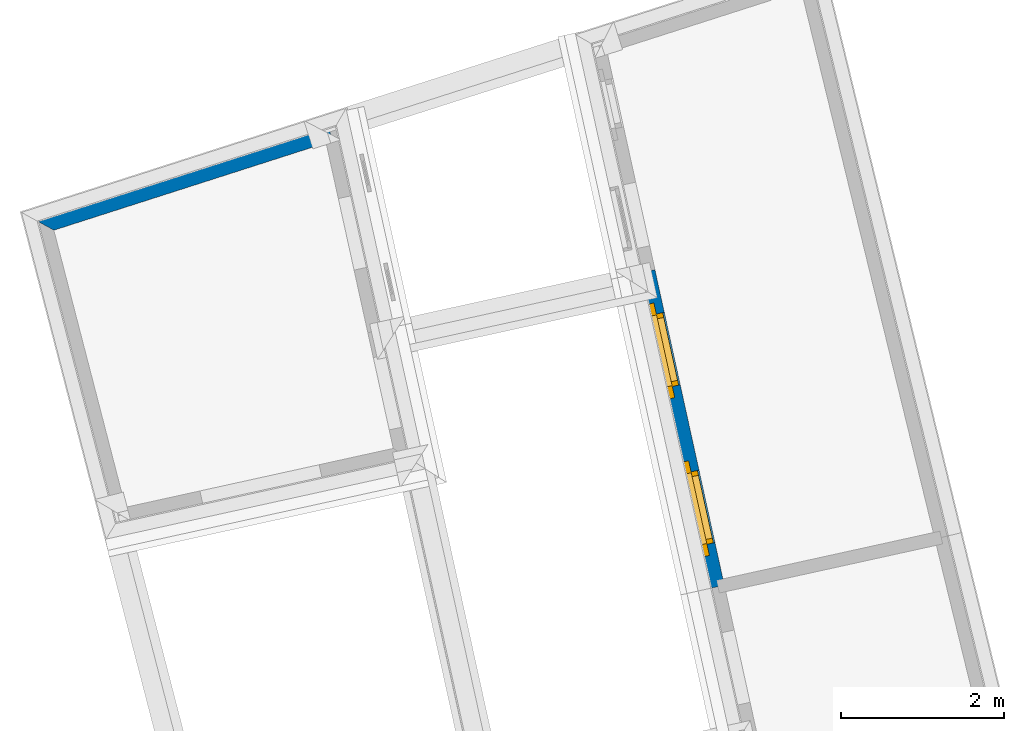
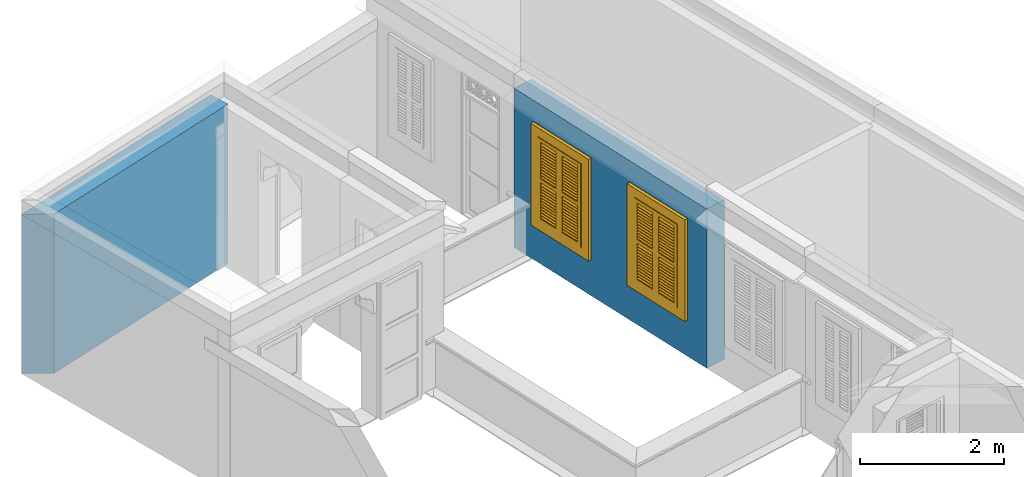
# One storey, part 11 of 17: 2 walls, 2 windows, 2 openings.
"""IFC4 building model written with IfcOpenShell, lengths in metres."""

from ifc_helpers import new_model, si_unit, frame, origin, origin_with_axes, place, context, subcontext, project, spatial, polyline, outline, extrude, faceted_brep, source, transform, mapped, material, layer, layer_set, layer_usage, type_object, type_shapes, element, fill, save


model = new_model("IFC4")

# Units and contexts
model_context = context("Model", 3, world=origin_with_axes())
body_context = subcontext(model_context, "Body", "Model", "MODEL_VIEW")
ifc_project = project(units=[si_unit("PLANEANGLEUNIT", "RADIAN"), si_unit("MASSUNIT", "GRAM", prefix="KILO"), si_unit("FORCEUNIT", "NEWTON", prefix="KILO"), si_unit("LENGTHUNIT", "METRE"), si_unit("AREAUNIT", "SQUARE_METRE"), si_unit("VOLUMEUNIT", "CUBIC_METRE")], contexts=[model_context, model_context])

# Site, building, storey
site_placement = place(None, origin_with_axes())
site = spatial("IfcSite", under=ifc_project, at=site_placement, Name="Site plot-2", CompositionType="ELEMENT")
building_placement = place(None, origin_with_axes())
building = spatial("IfcBuilding", under=site, at=building_placement, Name="Building plot-2", CompositionType="ELEMENT")
storey_placement = place(None, frame((0.0, 0.0, 2.85), z_axis=(0.0, 0.0, 1.0), x_axis=(1.0, 0.0, 0.0)))
storey = spatial("IfcBuildingStorey", under=building, at=storey_placement, Name="plot-2 1", CompositionType="ELEMENT", Elevation=2.85)

# Wall, openings, windows
ifc_material_1 = material(Name="Masonry")
ifc_layer_1 = layer(ifc_material_1, 0.33, ventilated=False)
ifc_layer_set_1 = layer_set([ifc_layer_1], Name="exterior_0.08_0.25")
ifc_layer_usage_1 = layer_usage(ifc_layer_set_1, "AXIS2", "POSITIVE", -0.25)
wall_type_1 = type_object("IfcWallType", Name="exterior_0.08_0.25", PredefinedType="SOLIDWALL", material=ifc_layer_set_1)
wall_1_placement = place(storey_placement, frame((15.4847400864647, 13.3196034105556, 0.0), z_axis=(0.0, 0.0, 1.0), x_axis=(0.214808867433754, -0.976656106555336, 0.0)))
wall_1 = element("IfcWall", 1, at=wall_1_placement, inside=storey, type_object=wall_type_1, material=ifc_layer_usage_1, Name="exterior", context=body_context, shape_type="SweptSolid", body=[
    extrude(outline(polyline([(2.54508886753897e-15, 0.0800000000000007), (-5.5970393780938e-15, -0.25), (3.96847754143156, -0.250000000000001), (3.96847754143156, 0.0800000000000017), (2.54508886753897e-15, 0.0800000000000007)])), origin_with_axes(), (0.0, 0.0, 1.0), 2.7),
])
opening_1_placement = place(wall_1_placement, frame((0.53711938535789, 0.0, 0.75)))
opening_1 = element("IfcOpeningElement", 2, at=opening_1_placement, cuts=wall_1, Name="My Opening", ObjectType="Opening", context=body_context, shape_type="SweptSolid", body=[
    extrude(outline(polyline([(0.0, -0.269999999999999), (0.909999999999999, -0.269999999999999), (0.910000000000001, 1.1), (1.11022302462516e-15, 1.1), (0.0, -0.269999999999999)])), origin_with_axes(), (0.0, 0.0, 1.0), 1.445),
])
opening_2_placement = place(wall_1_placement, frame((2.52135815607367, 0.0, 0.75)))
opening_2 = element("IfcOpeningElement", 3, at=opening_2_placement, cuts=wall_1, Name="My Opening", ObjectType="Opening", context=body_context, shape_type="SweptSolid", body=[
    extrude(outline(polyline([(0.0, -0.270000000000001), (0.910000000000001, -0.270000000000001), (0.910000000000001, 1.1), (4.44089209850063e-16, 1.1), (0.0, -0.270000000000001)])), origin_with_axes(), (0.0, 0.0, 1.0), 1.445),
])
window_type = type_object("IfcWindowType", Name="shuttered_shorter", PartitioningType="DOUBLE_PANEL_HORIZONTAL", PredefinedType="NOTDEFINED")
shared_shape = source(origin(), body_context, "Body", "Brep", [
    faceted_brep([(0.393, 0.0, 0.622), (0.074, 0.0, 0.622), (0.074, 0.0, 0.632), (0.393, 0.0, 0.632), (0.074, -0.04, 0.592), (0.393, -0.04, 0.592), (0.393, -0.04, 0.582), (0.074, -0.04, 0.582), (0.517, 0.0, 0.682), (0.836, 0.0, 0.682), (0.836, 0.0, 0.672), (0.517, 0.0, 0.672), (0.517, -0.04, 0.642), (0.836, -0.04, 0.642), (0.836, -0.04, 0.632), (0.517, -0.04, 0.632), (0.517, 0.0, 0.632), (0.836, 0.0, 0.632), (0.836, 0.0, 0.622), (0.517, 0.0, 0.622), (0.517, -0.04, 0.592), (0.836, -0.04, 0.592), (0.836, -0.04, 0.582), (0.517, -0.04, 0.582), (0.517, 0.0, 0.232), (0.836, 0.0, 0.232), (0.836, 0.0, 0.222), (0.517, 0.0, 0.222), (0.517, -0.04, 0.192), (0.836, -0.04, 0.192), (0.836, -0.04, 0.182), (0.517, -0.04, 0.182), (0.517, 0.0, 0.532), (0.836, 0.0, 0.532), (0.836, 0.0, 0.522), (0.517, 0.0, 0.522), (0.517, -0.04, 0.492), (0.836, -0.04, 0.492), (0.836, -0.04, 0.482), (0.517, -0.04, 0.482), (0.517, 0.0, 0.482), (0.836, 0.0, 0.482), (0.836, 0.0, 0.472), (0.517, 0.0, 0.472), (0.517, -0.04, 0.442), (0.836, -0.04, 0.442), (0.836, -0.04, 0.432), (0.517, -0.04, 0.432), (0.517, 0.0, 0.582), (0.836, 0.0, 0.582), (0.836, 0.0, 0.572), (0.517, 0.0, 0.572), (0.517, -0.04, 0.542), (0.836, -0.04, 0.542), (0.836, -0.04, 0.532), (0.517, -0.04, 0.532), (0.517, 0.0, 0.182), (0.836, 0.0, 0.182), (0.836, 0.0, 0.172), (0.517, 0.0, 0.172), (0.517, -0.04, 0.142), (0.836, -0.04, 0.142), (0.836, -0.04, 0.132), (0.517, -0.04, 0.132), (0.517, 0.0, 0.382), (0.836, 0.0, 0.382), (0.836, 0.0, 0.372), (0.517, 0.0, 0.372), (0.517, -0.04, 0.342), (0.836, -0.04, 0.342), (0.836, -0.04, 0.332), (0.517, -0.04, 0.332), (0.517, 0.0, 0.432), (0.836, 0.0, 0.432), (0.836, 0.0, 0.422), (0.517, 0.0, 0.422), (0.517, -0.04, 0.392), (0.836, -0.04, 0.392), (0.836, -0.04, 0.382), (0.517, -0.04, 0.382), (0.517, 0.0, 0.132), (0.836, 0.0, 0.132), (0.836, 0.0, 0.122), (0.517, 0.0, 0.122), (0.517, -0.04, 0.092), (0.836, -0.04, 0.092), (0.836, -0.04, 0.082), (0.517, -0.04, 0.082), (0.517, 0.0, 0.282), (0.836, 0.0, 0.282), (0.836, 0.0, 0.272), (0.517, 0.0, 0.272), (0.517, -0.04, 0.242), (0.836, -0.04, 0.242), (0.836, -0.04, 0.232), (0.517, -0.04, 0.232), (0.517, 0.0, 0.332), (0.836, 0.0, 0.332), (0.836, 0.0, 0.322), (0.517, 0.0, 0.322), (0.517, -0.04, 0.292), (0.836, -0.04, 0.292), (0.836, -0.04, 0.282), (0.517, -0.04, 0.282), (0.517, 0.0, 1.362667), (0.836, 0.0, 1.362667), (0.836, 0.0, 1.352667), (0.517, 0.0, 1.352667), (0.517, -0.04, 1.322667), (0.836, -0.04, 1.322667), (0.836, -0.04, 1.312667), (0.517, -0.04, 1.312667), (0.517, 0.0, 1.312667), (0.836, 0.0, 1.312667), (0.836, 0.0, 1.302667), (0.517, 0.0, 1.302667), (0.517, -0.04, 1.272667), (0.836, -0.04, 1.272667), (0.836, -0.04, 1.262667), (0.517, -0.04, 1.262667), (0.517, 0.0, 0.912667), (0.836, 0.0, 0.912667), (0.836, 0.0, 0.902667), (0.517, 0.0, 0.902667), (0.517, -0.04, 0.872667), (0.836, -0.04, 0.872667), (0.836, -0.04, 0.862667), (0.517, -0.04, 0.862667), (0.517, 0.0, 1.212667), (0.836, 0.0, 1.212667), (0.836, 0.0, 1.202667), (0.517, 0.0, 1.202667), (0.517, -0.04, 1.172667), (0.836, -0.04, 1.172667), (0.836, -0.04, 1.162667), (0.517, -0.04, 1.162667), (0.517, 0.0, 1.162667), (0.836, 0.0, 1.162667), (0.836, 0.0, 1.152667), (0.517, 0.0, 1.152667), (0.517, -0.04, 1.122667), (0.836, -0.04, 1.122667), (0.836, -0.04, 1.112667), (0.517, -0.04, 1.112667), (0.517, 0.0, 1.262667), (0.836, 0.0, 1.262667), (0.836, 0.0, 1.252667), (0.517, 0.0, 1.252667), (0.517, -0.04, 1.222667), (0.836, -0.04, 1.222667), (0.836, -0.04, 1.212667), (0.517, -0.04, 1.212667), (0.517, 0.0, 0.862667), (0.836, 0.0, 0.862667), (0.836, 0.0, 0.852667), (0.517, 0.0, 0.852667), (0.517, -0.04, 0.822667), (0.836, -0.04, 0.822667), (0.836, -0.04, 0.812667), (0.517, -0.04, 0.812667), (0.517, 0.0, 1.062667), (0.836, 0.0, 1.062667), (0.836, 0.0, 1.052667), (0.517, 0.0, 1.052667), (0.517, -0.04, 1.022667), (0.836, -0.04, 1.022667), (0.836, -0.04, 1.012667), (0.517, -0.04, 1.012667), (0.517, 0.0, 1.112667), (0.836, 0.0, 1.112667), (0.836, 0.0, 1.102667), (0.517, 0.0, 1.102667), (0.517, -0.04, 1.072667), (0.836, -0.04, 1.072667), (0.836, -0.04, 1.062667), (0.517, -0.04, 1.062667), (0.517, 0.0, 0.812667), (0.836, 0.0, 0.812667), (0.836, 0.0, 0.802667), (0.517, 0.0, 0.802667), (0.517, -0.04, 0.772667), (0.836, -0.04, 0.772667), (0.836, -0.04, 0.762667), (0.517, -0.04, 0.762667), (0.517, 0.0, 0.962667), (0.836, 0.0, 0.962667), (0.836, 0.0, 0.952667), (0.517, 0.0, 0.952667), (0.517, -0.04, 0.922667), (0.836, -0.04, 0.922667), (0.836, -0.04, 0.912667), (0.517, -0.04, 0.912667), (0.517, 0.0, 1.012667), (0.836, 0.0, 1.012667), (0.836, 0.0, 1.002667), (0.517, 0.0, 1.002667), (0.517, -0.04, 0.972667), (0.836, -0.04, 0.972667), (0.836, -0.04, 0.962667), (0.517, -0.04, 0.962667), (0.074, 0.0, 0.682), (0.393, 0.0, 0.682), (0.393, 0.0, 0.672), (0.074, 0.0, 0.672), (0.074, -0.04, 0.642), (0.393, -0.04, 0.642), (0.393, -0.04, 0.632), (0.074, -0.04, 0.632), (0.074, 0.0, 0.232), (0.393, 0.0, 0.232), (0.393, 0.0, 0.222), (0.074, 0.0, 0.222), (0.074, -0.04, 0.192), (0.393, -0.04, 0.192), (0.393, -0.04, 0.182), (0.074, -0.04, 0.182), (0.074, 0.0, 0.532), (0.393, 0.0, 0.532), (0.393, 0.0, 0.522), (0.074, 0.0, 0.522), (0.074, -0.04, 0.492), (0.393, -0.04, 0.492), (0.393, -0.04, 0.482), (0.074, -0.04, 0.482), (0.074, 0.0, 0.482), (0.393, 0.0, 0.482), (0.393, 0.0, 0.472), (0.074, 0.0, 0.472), (0.074, -0.04, 0.442), (0.393, -0.04, 0.442), (0.393, -0.04, 0.432), (0.074, -0.04, 0.432), (0.074, 0.0, 0.582), (0.393, 0.0, 0.582), (0.393, 0.0, 0.572), (0.074, 0.0, 0.572), (0.074, -0.04, 0.542), (0.393, -0.04, 0.542), (0.393, -0.04, 0.532), (0.074, -0.04, 0.532), (0.074, 0.0, 0.182), (0.393, 0.0, 0.182), (0.393, 0.0, 0.172), (0.074, 0.0, 0.172), (0.074, -0.04, 0.142), (0.393, -0.04, 0.142), (0.393, -0.04, 0.132), (0.074, -0.04, 0.132), (0.074, 0.0, 0.382), (0.393, 0.0, 0.382), (0.393, 0.0, 0.372), (0.074, 0.0, 0.372), (0.074, -0.04, 0.342), (0.393, -0.04, 0.342), (0.393, -0.04, 0.332), (0.074, -0.04, 0.332), (0.074, 0.0, 0.432), (0.393, 0.0, 0.432), (0.393, 0.0, 0.422), (0.074, 0.0, 0.422), (0.074, -0.04, 0.392), (0.393, -0.04, 0.392), (0.393, -0.04, 0.382), (0.074, -0.04, 0.382), (0.074, 0.0, 0.132), (0.393, 0.0, 0.132), (0.393, 0.0, 0.122), (0.074, 0.0, 0.122), (0.074, -0.04, 0.092), (0.393, -0.04, 0.092), (0.393, -0.04, 0.082), (0.074, -0.04, 0.082), (0.074, 0.0, 0.282), (0.393, 0.0, 0.282), (0.393, 0.0, 0.272), (0.074, 0.0, 0.272), (0.074, -0.04, 0.242), (0.393, -0.04, 0.242), (0.393, -0.04, 0.232), (0.074, -0.04, 0.232), (0.074, 0.0, 0.332), (0.393, 0.0, 0.332), (0.393, 0.0, 0.322), (0.074, 0.0, 0.322), (0.074, -0.04, 0.292), (0.393, -0.04, 0.292), (0.393, -0.04, 0.282), (0.074, -0.04, 0.282), (0.074, 0.0, 1.362667), (0.393, 0.0, 1.362667), (0.393, 0.0, 1.352667), (0.074, 0.0, 1.352667), (0.074, -0.04, 1.322667), (0.393, -0.04, 1.322667), (0.393, -0.04, 1.312667), (0.074, -0.04, 1.312667), (0.074, 0.0, 1.312667), (0.393, 0.0, 1.312667), (0.393, 0.0, 1.302667), (0.074, 0.0, 1.302667), (0.074, -0.04, 1.272667), (0.393, -0.04, 1.272667), (0.393, -0.04, 1.262667), (0.074, -0.04, 1.262667), (0.074, 0.0, 0.912667), (0.393, 0.0, 0.912667), (0.393, 0.0, 0.902667), (0.074, 0.0, 0.902667), (0.074, -0.04, 0.872667), (0.393, -0.04, 0.872667), (0.393, -0.04, 0.862667), (0.074, -0.04, 0.862667), (0.074, 0.0, 1.212667), (0.393, 0.0, 1.212667), (0.393, 0.0, 1.202667), (0.074, 0.0, 1.202667), (0.074, -0.04, 1.172667), (0.393, -0.04, 1.172667), (0.393, -0.04, 1.162667), (0.074, -0.04, 1.162667), (0.074, 0.0, 1.162667), (0.393, 0.0, 1.162667), (0.393, 0.0, 1.152667), (0.074, 0.0, 1.152667), (0.074, -0.04, 1.122667), (0.393, -0.04, 1.122667), (0.393, -0.04, 1.112667), (0.074, -0.04, 1.112667), (0.074, 0.0, 1.262667), (0.393, 0.0, 1.262667), (0.393, 0.0, 1.252667), (0.074, 0.0, 1.252667), (0.074, -0.04, 1.222667), (0.393, -0.04, 1.222667), (0.393, -0.04, 1.212667), (0.074, -0.04, 1.212667), (0.074, 0.0, 0.862667), (0.393, 0.0, 0.862667), (0.393, 0.0, 0.852667), (0.074, 0.0, 0.852667), (0.074, -0.04, 0.822667), (0.393, -0.04, 0.822667), (0.393, -0.04, 0.812667), (0.074, -0.04, 0.812667), (0.074, 0.0, 1.062667), (0.393, 0.0, 1.062667), (0.393, 0.0, 1.052667), (0.074, 0.0, 1.052667), (0.074, -0.04, 1.022667), (0.393, -0.04, 1.022667), (0.393, -0.04, 1.012667), (0.074, -0.04, 1.012667), (0.074, 0.0, 1.112667), (0.393, 0.0, 1.112667), (0.393, 0.0, 1.102667), (0.074, 0.0, 1.102667), (0.074, -0.04, 1.072667), (0.393, -0.04, 1.072667), (0.393, -0.04, 1.062667), (0.074, -0.04, 1.062667), (0.074, 0.0, 0.812667), (0.393, 0.0, 0.812667), (0.393, 0.0, 0.802667), (0.074, 0.0, 0.802667), (0.074, -0.04, 0.772667), (0.393, -0.04, 0.772667), (0.393, -0.04, 0.762667), (0.074, -0.04, 0.762667), (0.074, 0.0, 0.962667), (0.393, 0.0, 0.962667), (0.393, 0.0, 0.952667), (0.074, 0.0, 0.952667), (0.074, -0.04, 0.922667), (0.393, -0.04, 0.922667), (0.393, -0.04, 0.912667), (0.074, -0.04, 0.912667), (0.074, 0.0, 1.012667), (0.393, 0.0, 1.012667), (0.393, 0.0, 1.002667), (0.074, 0.0, 1.002667), (0.074, -0.04, 0.972667), (0.393, -0.04, 0.972667), (0.393, -0.04, 0.962667), (0.074, -0.04, 0.962667), (0.517, -0.04, 0.072), (0.457, -0.04, 0.012), (0.896, -0.04, 0.012), (0.836, -0.04, 0.072), (0.457, -0.04, 0.692667), (0.517, -0.04, 0.692667), (0.457, 0.0, 0.012), (0.896, 0.0, 0.012), (0.836, -0.04, 0.692667), (0.896, -0.04, 0.692667), (0.836, 0.0, 0.072), (0.517, 0.0, 0.072), (0.457, 0.0, 0.692667), (0.517, 0.0, 0.692667), (0.517, -0.04, 0.752666), (0.457, -0.04, 0.752666), (0.896, 0.0, 0.692667), (0.836, 0.0, 0.692667), (0.836, -0.04, 0.752666), (0.896, -0.04, 0.752666), (0.457, 0.0, 0.752666), (0.457, -0.04, 1.433333), (0.517, -0.04, 1.373333), (0.896, 0.0, 0.752666), (0.836, -0.04, 1.373333), (0.896, -0.04, 1.433333), (0.457, 0.0, 1.433333), (0.517, 0.0, 0.752666), (0.836, 0.0, 0.752666), (0.517, 0.0, 1.373333), (0.896, 0.0, 1.433333), (0.836, 0.0, 1.373333), (0.074, -0.04, 0.072), (0.014, -0.04, 0.012), (0.453, -0.04, 0.012), (0.393, -0.04, 0.072), (0.014, -0.04, 0.692667), (0.074, -0.04, 0.692667), (0.014, 0.0, 0.012), (0.453, 0.0, 0.012), (0.393, -0.04, 0.692667), (0.453, -0.04, 0.692667), (0.393, 0.0, 0.072), (0.074, 0.0, 0.072), (0.014, 0.0, 0.692667), (0.074, 0.0, 0.692667), (0.074, -0.04, 0.752666), (0.014, -0.04, 0.752666), (0.453, 0.0, 0.692667), (0.393, 0.0, 0.692667), (0.393, -0.04, 0.752666), (0.453, -0.04, 0.752666), (0.014, 0.0, 0.752666), (0.014, -0.04, 1.433333), (0.074, -0.04, 1.373333), (0.453, 0.0, 0.752666), (0.393, -0.04, 1.373333), (0.453, -0.04, 1.433333), (0.014, 0.0, 1.433333), (0.074, 0.0, 0.752666), (0.393, 0.0, 0.752666), (0.074, 0.0, 1.373333), (0.453, 0.0, 1.433333), (0.393, 0.0, 1.373333), (0.0, 0.33, 1.445), (0.91, 0.33, 1.445), (0.85, 0.33, 1.385), (0.06, 0.33, 1.385), (0.91, 0.25, 1.445), (0.0, 0.25, 1.445), (0.91, 0.25, 1.445), (0.85, 0.33, 0.06), (0.91, 0.33, 0.0), (0.85, 0.25, 1.385), (0.06, 0.25, 1.385), (0.0, 0.33, 0.0), (0.06, 0.33, 0.06), (0.0, 0.25, 0.0), (0.91, 0.25, 0.0), (0.85, 0.25, 0.06), (0.06, 0.25, 0.06), (1.05, 0.25, 1.585), (-0.14, 0.25, 1.585), (-0.14, -0.03, 1.585), (1.05, -0.03, 1.585), (0.9, -0.03, 1.435), (0.01, -0.03, 1.435), (0.01, 0.25, 1.435), (0.9, 0.25, 1.435), (0.9, 0.25, 0.01), (0.9, -0.03, 0.01), (1.05, -0.03, -0.14), (1.05, 0.25, -0.14), (0.01, -0.03, 0.01), (0.01, 0.25, 0.01), (-0.14, -0.03, -0.14), (-0.14, 0.25, -0.14)], [[[0, 1, 2, 3]], [[4, 5, 3, 2]], [[5, 6, 0, 3]], [[1, 0, 6, 7]], [[2, 1, 7, 4]], [[5, 4, 7, 6]], [[8, 9, 10, 11]], [[12, 13, 9, 8]], [[13, 14, 10, 9]], [[14, 15, 11, 10]], [[15, 12, 8, 11]], [[13, 12, 15, 14]], [[16, 17, 18, 19]], [[20, 21, 17, 16]], [[21, 22, 18, 17]], [[22, 23, 19, 18]], [[23, 20, 16, 19]], [[21, 20, 23, 22]], [[24, 25, 26, 27]], [[28, 29, 25, 24]], [[29, 30, 26, 25]], [[30, 31, 27, 26]], [[31, 28, 24, 27]], [[29, 28, 31, 30]], [[32, 33, 34, 35]], [[36, 37, 33, 32]], [[37, 38, 34, 33]], [[38, 39, 35, 34]], [[39, 36, 32, 35]], [[37, 36, 39, 38]], [[40, 41, 42, 43]], [[44, 45, 41, 40]], [[45, 46, 42, 41]], [[46, 47, 43, 42]], [[47, 44, 40, 43]], [[45, 44, 47, 46]], [[48, 49, 50, 51]], [[52, 53, 49, 48]], [[53, 54, 50, 49]], [[54, 55, 51, 50]], [[55, 52, 48, 51]], [[53, 52, 55, 54]], [[56, 57, 58, 59]], [[60, 61, 57, 56]], [[61, 62, 58, 57]], [[62, 63, 59, 58]], [[63, 60, 56, 59]], [[61, 60, 63, 62]], [[64, 65, 66, 67]], [[68, 69, 65, 64]], [[69, 70, 66, 65]], [[70, 71, 67, 66]], [[71, 68, 64, 67]], [[69, 68, 71, 70]], [[72, 73, 74, 75]], [[76, 77, 73, 72]], [[77, 78, 74, 73]], [[78, 79, 75, 74]], [[79, 76, 72, 75]], [[77, 76, 79, 78]], [[80, 81, 82, 83]], [[84, 85, 81, 80]], [[85, 86, 82, 81]], [[86, 87, 83, 82]], [[87, 84, 80, 83]], [[85, 84, 87, 86]], [[88, 89, 90, 91]], [[92, 93, 89, 88]], [[93, 94, 90, 89]], [[94, 95, 91, 90]], [[95, 92, 88, 91]], [[93, 92, 95, 94]], [[96, 97, 98, 99]], [[100, 101, 97, 96]], [[101, 102, 98, 97]], [[102, 103, 99, 98]], [[103, 100, 96, 99]], [[101, 100, 103, 102]], [[104, 105, 106, 107]], [[108, 109, 105, 104]], [[109, 110, 106, 105]], [[110, 111, 107, 106]], [[111, 108, 104, 107]], [[109, 108, 111, 110]], [[112, 113, 114, 115]], [[116, 117, 113, 112]], [[117, 118, 114, 113]], [[118, 119, 115, 114]], [[119, 116, 112, 115]], [[117, 116, 119, 118]], [[120, 121, 122, 123]], [[124, 125, 121, 120]], [[125, 126, 122, 121]], [[126, 127, 123, 122]], [[127, 124, 120, 123]], [[125, 124, 127, 126]], [[128, 129, 130, 131]], [[132, 133, 129, 128]], [[133, 134, 130, 129]], [[134, 135, 131, 130]], [[135, 132, 128, 131]], [[133, 132, 135, 134]], [[136, 137, 138, 139]], [[140, 141, 137, 136]], [[141, 142, 138, 137]], [[142, 143, 139, 138]], [[139, 143, 140, 136]], [[141, 140, 143, 142]], [[144, 145, 146, 147]], [[148, 149, 145, 144]], [[149, 150, 146, 145]], [[150, 151, 147, 146]], [[151, 148, 144, 147]], [[149, 148, 151, 150]], [[152, 153, 154, 155]], [[156, 157, 153, 152]], [[157, 158, 154, 153]], [[158, 159, 155, 154]], [[159, 156, 152, 155]], [[157, 156, 159, 158]], [[160, 161, 162, 163]], [[164, 165, 161, 160]], [[165, 166, 162, 161]], [[166, 167, 163, 162]], [[167, 164, 160, 163]], [[165, 164, 167, 166]], [[168, 169, 170, 171]], [[172, 173, 169, 168]], [[173, 174, 170, 169]], [[174, 175, 171, 170]], [[175, 172, 168, 171]], [[173, 172, 175, 174]], [[176, 177, 178, 179]], [[180, 181, 177, 176]], [[181, 182, 178, 177]], [[182, 183, 179, 178]], [[183, 180, 176, 179]], [[181, 180, 183, 182]], [[184, 185, 186, 187]], [[188, 189, 185, 184]], [[189, 190, 186, 185]], [[190, 191, 187, 186]], [[191, 188, 184, 187]], [[189, 188, 191, 190]], [[192, 193, 194, 195]], [[196, 197, 193, 192]], [[197, 198, 194, 193]], [[198, 199, 195, 194]], [[199, 196, 192, 195]], [[197, 196, 199, 198]], [[200, 201, 202, 203]], [[204, 205, 201, 200]], [[205, 206, 202, 201]], [[206, 207, 203, 202]], [[207, 204, 200, 203]], [[205, 204, 207, 206]], [[208, 209, 210, 211]], [[212, 213, 209, 208]], [[213, 214, 210, 209]], [[214, 215, 211, 210]], [[215, 212, 208, 211]], [[213, 212, 215, 214]], [[216, 217, 218, 219]], [[220, 221, 217, 216]], [[221, 222, 218, 217]], [[222, 223, 219, 218]], [[223, 220, 216, 219]], [[221, 220, 223, 222]], [[224, 225, 226, 227]], [[228, 229, 225, 224]], [[229, 230, 226, 225]], [[230, 231, 227, 226]], [[231, 228, 224, 227]], [[229, 228, 231, 230]], [[232, 233, 234, 235]], [[236, 237, 233, 232]], [[237, 238, 234, 233]], [[238, 239, 235, 234]], [[239, 236, 232, 235]], [[237, 236, 239, 238]], [[240, 241, 242, 243]], [[244, 245, 241, 240]], [[245, 246, 242, 241]], [[246, 247, 243, 242]], [[247, 244, 240, 243]], [[245, 244, 247, 246]], [[248, 249, 250, 251]], [[252, 253, 249, 248]], [[253, 254, 250, 249]], [[254, 255, 251, 250]], [[255, 252, 248, 251]], [[253, 252, 255, 254]], [[256, 257, 258, 259]], [[260, 261, 257, 256]], [[261, 262, 258, 257]], [[262, 263, 259, 258]], [[263, 260, 256, 259]], [[261, 260, 263, 262]], [[264, 265, 266, 267]], [[268, 269, 265, 264]], [[269, 270, 266, 265]], [[270, 271, 267, 266]], [[271, 268, 264, 267]], [[269, 268, 271, 270]], [[272, 273, 274, 275]], [[276, 277, 273, 272]], [[277, 278, 274, 273]], [[278, 279, 275, 274]], [[279, 276, 272, 275]], [[277, 276, 279, 278]], [[280, 281, 282, 283]], [[284, 285, 281, 280]], [[285, 286, 282, 281]], [[286, 287, 283, 282]], [[287, 284, 280, 283]], [[285, 284, 287, 286]], [[288, 289, 290, 291]], [[292, 293, 289, 288]], [[293, 294, 290, 289]], [[294, 295, 291, 290]], [[295, 292, 288, 291]], [[293, 292, 295, 294]], [[296, 297, 298, 299]], [[300, 301, 297, 296]], [[301, 302, 298, 297]], [[302, 303, 299, 298]], [[303, 300, 296, 299]], [[301, 300, 303, 302]], [[304, 305, 306, 307]], [[308, 309, 305, 304]], [[309, 310, 306, 305]], [[310, 311, 307, 306]], [[311, 308, 304, 307]], [[309, 308, 311, 310]], [[312, 313, 314, 315]], [[316, 317, 313, 312]], [[317, 318, 314, 313]], [[318, 319, 315, 314]], [[319, 316, 312, 315]], [[317, 316, 319, 318]], [[320, 321, 322, 323]], [[324, 325, 321, 320]], [[325, 326, 322, 321]], [[326, 327, 323, 322]], [[327, 324, 320, 323]], [[325, 324, 327, 326]], [[328, 329, 330, 331]], [[332, 333, 329, 328]], [[333, 334, 330, 329]], [[334, 335, 331, 330]], [[335, 332, 328, 331]], [[333, 332, 335, 334]], [[336, 337, 338, 339]], [[340, 341, 337, 336]], [[341, 342, 338, 337]], [[342, 343, 339, 338]], [[343, 340, 336, 339]], [[341, 340, 343, 342]], [[344, 345, 346, 347]], [[348, 349, 345, 344]], [[349, 350, 346, 345]], [[350, 351, 347, 346]], [[351, 348, 344, 347]], [[349, 348, 351, 350]], [[352, 353, 354, 355]], [[356, 357, 353, 352]], [[357, 358, 354, 353]], [[358, 359, 355, 354]], [[359, 356, 352, 355]], [[357, 356, 359, 358]], [[360, 361, 362, 363]], [[364, 365, 361, 360]], [[365, 366, 362, 361]], [[366, 367, 363, 362]], [[367, 364, 360, 363]], [[365, 364, 367, 366]], [[368, 369, 370, 371]], [[372, 373, 369, 368]], [[373, 374, 370, 369]], [[374, 375, 371, 370]], [[375, 372, 368, 371]], [[373, 372, 375, 374]], [[376, 377, 378, 379]], [[380, 381, 377, 376]], [[381, 382, 378, 377]], [[382, 383, 379, 378]], [[383, 380, 376, 379]], [[381, 380, 383, 382]], [[384, 385, 386, 387]], [[388, 385, 384, 389]], [[390, 391, 386, 385]], [[392, 387, 386, 393]], [[384, 387, 394, 395]], [[390, 385, 388, 396]], [[389, 384, 395, 397]], [[389, 398, 399, 388]], [[390, 395, 394, 391]], [[400, 393, 386, 391]], [[387, 392, 401, 394]], [[402, 392, 393, 403]], [[396, 388, 399, 404]], [[390, 396, 397, 395]], [[392, 389, 397, 401]], [[398, 389, 392, 402]], [[405, 399, 398, 406]], [[394, 401, 400, 391]], [[407, 403, 393, 400]], [[408, 402, 403, 409]], [[404, 399, 405, 410]], [[411, 397, 396, 404]], [[397, 411, 412, 401]], [[398, 402, 412, 411]], [[406, 398, 411, 413]], [[405, 406, 408, 409]], [[401, 412, 407, 400]], [[414, 409, 403, 407]], [[402, 408, 415, 412]], [[405, 409, 414, 410]], [[404, 410, 413, 411]], [[408, 406, 413, 415]], [[412, 415, 414, 407]], [[413, 410, 414, 415]], [[416, 417, 418, 419]], [[420, 417, 416, 421]], [[422, 423, 418, 417]], [[424, 419, 418, 425]], [[416, 419, 426, 427]], [[422, 417, 420, 428]], [[421, 416, 427, 429]], [[421, 430, 431, 420]], [[422, 427, 426, 423]], [[432, 425, 418, 423]], [[419, 424, 433, 426]], [[434, 424, 425, 435]], [[428, 420, 431, 436]], [[422, 428, 429, 427]], [[424, 421, 429, 433]], [[430, 421, 424, 434]], [[437, 431, 430, 438]], [[426, 433, 432, 423]], [[439, 435, 425, 432]], [[440, 434, 435, 441]], [[436, 431, 437, 442]], [[443, 429, 428, 436]], [[429, 443, 444, 433]], [[430, 434, 444, 443]], [[438, 430, 443, 445]], [[437, 438, 440, 441]], [[433, 444, 439, 432]], [[446, 441, 435, 439]], [[434, 440, 447, 444]], [[437, 441, 446, 442]], [[436, 442, 445, 443]], [[440, 438, 445, 447]], [[444, 447, 446, 439]], [[445, 442, 446, 447]], [[448, 449, 450, 451]], [[452, 449, 448]], [[448, 453, 454]], [[448, 454, 452]], [[455, 450, 449, 456]], [[451, 450, 457, 458]], [[459, 448, 451, 460]], [[448, 459, 461, 453]], [[454, 453, 458, 457]], [[462, 452, 454]], [[454, 457, 463]], [[454, 463, 462]], [[456, 449, 452, 462]], [[450, 455, 463, 457]], [[456, 459, 460, 455]], [[460, 451, 458, 464]], [[459, 456, 462, 461]], [[464, 458, 453, 461]], [[461, 462, 463, 464]], [[455, 460, 464, 463]], [[465, 466, 467, 468]], [[469, 470, 471, 472]], [[473, 474, 469, 472]], [[465, 468, 475, 476]], [[470, 477, 478, 471]], [[474, 473, 478, 477]], [[474, 477, 479, 475]], [[470, 467, 479, 477]], [[470, 469, 468, 467]], [[474, 475, 468, 469]], [[471, 478, 480, 466]], [[473, 472, 465, 476]], [[473, 476, 480, 478]], [[466, 465, 472, 471]], [[480, 476, 475, 479]], [[480, 479, 467, 466]]]),
])
type_shapes(window_type, [shared_shape])
window_1_placement = place(storey_placement, frame((15.3364209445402, 12.7370240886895, 0.75), z_axis=(0.0, 0.0, 1.0), x_axis=(0.195476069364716, -0.888757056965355, 0.0)))
window_1 = element("IfcWindow", 4, at=window_1_placement, inside=storey, type_object=window_type, Name="bedroom sahn window", OverallHeight=1.445, OverallWidth=0.91, context=body_context, shape_type="MappedRepresentation", body=[
    mapped(shared_shape, transform((0.0, 0.0, 0.0), scale=1.0)),
])
fill(opening_1, window_1)
window_2_placement = place(storey_placement, frame((15.7626530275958, 10.799105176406, 0.75), z_axis=(0.0, 0.0, 1.0), x_axis=(0.195476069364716, -0.888757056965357, 0.0)))
window_2 = element("IfcWindow", 5, at=window_2_placement, inside=storey, type_object=window_type, Name="bedroom sahn window", OverallHeight=1.445, OverallWidth=0.91, context=body_context, shape_type="MappedRepresentation", body=[
    mapped(shared_shape, transform((0.0, 0.0, 0.0), scale=1.0)),
])
fill(opening_2, window_2)

# Wall
ifc_material_2 = material(Name="Masonry")
ifc_layer_2 = layer(ifc_material_2, 0.33, ventilated=False)
ifc_layer_set_2 = layer_set([ifc_layer_2], Name="party_0.08_0.25")
ifc_layer_usage_2 = layer_usage(ifc_layer_set_2, "AXIS2", "POSITIVE", -0.25)
wall_type_2 = type_object("IfcWallType", Name="party_0.08_0.25", PredefinedType="SOLIDWALL", material=ifc_layer_set_2)
wall_2_placement = place(storey_placement, frame((11.5848230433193, 14.9953094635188, 0.0), z_axis=(0.0, 0.0, 1.0), x_axis=(-0.952226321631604, -0.30539324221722, 0.0)))
element("IfcWall", 6, at=wall_2_placement, inside=storey, type_object=wall_type_2, material=ifc_layer_usage_2, Name="party", context=body_context, shape_type="SweptSolid", body=[
    extrude(outline(polyline([(8.37955521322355e-16, 0.0800000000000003), (-4.0203066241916e-17, -0.250000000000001), (3.91051789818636, -0.250000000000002), (3.59885254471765, 0.0800000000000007), (8.37955521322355e-16, 0.0800000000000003)])), origin_with_axes(), (0.0, 0.0, 1.0), 2.7),
])

save(model, "model.ifc")
